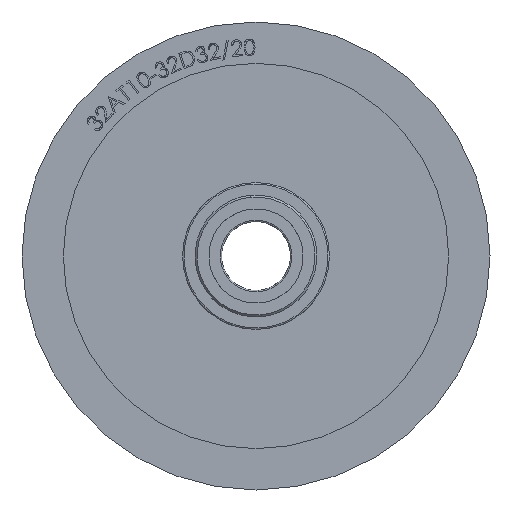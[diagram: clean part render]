
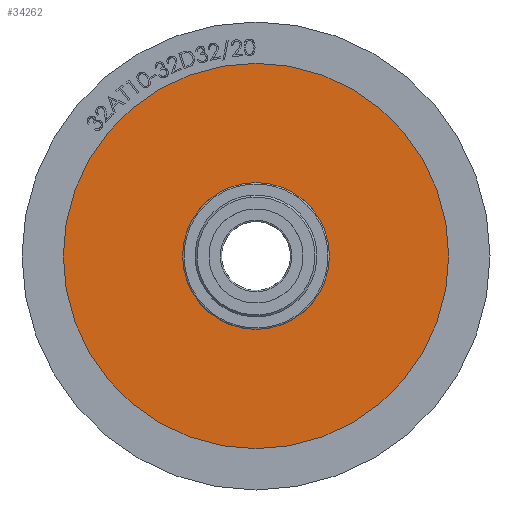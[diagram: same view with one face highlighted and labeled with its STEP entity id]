
A CAD part, left-side view. The second image highlights one B-rep face of the part: STEP entity #34262.
In plain terms, the highlighted planar face has unit normal (-1, 0, 0).
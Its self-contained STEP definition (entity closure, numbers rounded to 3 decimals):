
#561 = CARTESIAN_POINT ( 'NONE',  ( 658.833, 875.483, 1254.862 ) ) ;
#1225 = CARTESIAN_POINT ( 'NONE',  ( 658.833, 875.483, 1254.862 ) ) ;
#2117 = VERTEX_POINT ( 'NONE', #2595 ) ;
#2268 = DIRECTION ( 'NONE',  ( -1., 0., 0. ) ) ;
#2373 = VERTEX_POINT ( 'NONE', #6135 ) ;
#2475 = AXIS2_PLACEMENT_3D ( 'NONE', #1225, #22999, #6308 ) ;
#2595 = CARTESIAN_POINT ( 'NONE',  ( 658.833, 875.483, 1212.862 ) ) ;
#4667 = ORIENTED_EDGE ( 'NONE', *, *, #15432, .F. ) ;
#5139 = PLANE ( 'NONE',  #30144 ) ;
#5826 = DIRECTION ( 'NONE',  ( -1., 0., 0. ) ) ;
#6135 = CARTESIAN_POINT ( 'NONE',  ( 658.833, 875.483, 1296.862 ) ) ;
#6308 = DIRECTION ( 'NONE',  ( 0., 0., 1. ) ) ;
#7931 = DIRECTION ( 'NONE',  ( 0., 0., 1. ) ) ;
#8950 = CARTESIAN_POINT ( 'NONE',  ( 658.833, 875.483, 1254.862 ) ) ;
#9399 = CIRCLE ( 'NONE', #32947, 42. ) ;
#10510 = DIRECTION ( 'NONE',  ( 0., 0., 1. ) ) ;
#11471 = DIRECTION ( 'NONE',  ( 0., 0., 1. ) ) ;
#11522 = CIRCLE ( 'NONE', #21626, 16. ) ;
#13340 = ORIENTED_EDGE ( 'NONE', *, *, #31118, .T. ) ;
#15432 = EDGE_CURVE ( 'NONE', #28447, #33529, #21116, .T. ) ;
#16064 = EDGE_CURVE ( 'NONE', #2117, #2373, #9399, .T. ) ;
#16566 = FACE_OUTER_BOUND ( 'NONE', #18965, .T. ) ;
#16782 = ORIENTED_EDGE ( 'NONE', *, *, #16064, .T. ) ;
#16804 = CARTESIAN_POINT ( 'NONE',  ( 658.833, 875.483, 1270.862 ) ) ;
#16895 = DIRECTION ( 'NONE',  ( -1., 0., 0. ) ) ;
#17257 = EDGE_LOOP ( 'NONE', ( #4667, #24185 ) ) ;
#18667 = FACE_BOUND ( 'NONE', #17257, .T. ) ;
#18965 = EDGE_LOOP ( 'NONE', ( #13340, #16782 ) ) ;
#19706 = DIRECTION ( 'NONE',  ( 0., 0., 1. ) ) ;
#21116 = CIRCLE ( 'NONE', #23368, 16. ) ;
#21626 = AXIS2_PLACEMENT_3D ( 'NONE', #33048, #24631, #11471 ) ;
#22999 = DIRECTION ( 'NONE',  ( -1., 0., 0. ) ) ;
#23368 = AXIS2_PLACEMENT_3D ( 'NONE', #8950, #16895, #19706 ) ;
#24185 = ORIENTED_EDGE ( 'NONE', *, *, #31591, .F. ) ;
#24631 = DIRECTION ( 'NONE',  ( -1., 0., 0. ) ) ;
#24919 = CIRCLE ( 'NONE', #2475, 42. ) ;
#28447 = VERTEX_POINT ( 'NONE', #16804 ) ;
#30144 = AXIS2_PLACEMENT_3D ( 'NONE', #561, #5826, #7931 ) ;
#31118 = EDGE_CURVE ( 'NONE', #2373, #2117, #24919, .T. ) ;
#31591 = EDGE_CURVE ( 'NONE', #33529, #28447, #11522, .T. ) ;
#32947 = AXIS2_PLACEMENT_3D ( 'NONE', #34027, #2268, #10510 ) ;
#33026 = CARTESIAN_POINT ( 'NONE',  ( 658.833, 875.483, 1238.862 ) ) ;
#33048 = CARTESIAN_POINT ( 'NONE',  ( 658.833, 875.483, 1254.862 ) ) ;
#33529 = VERTEX_POINT ( 'NONE', #33026 ) ;
#34027 = CARTESIAN_POINT ( 'NONE',  ( 658.833, 875.483, 1254.862 ) ) ;
#34262 = ADVANCED_FACE ( 'NONE', ( #18667, #16566 ), #5139, .T. ) ;
